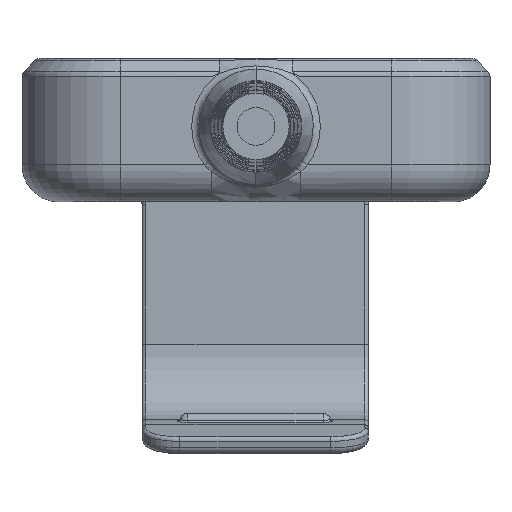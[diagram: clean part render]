
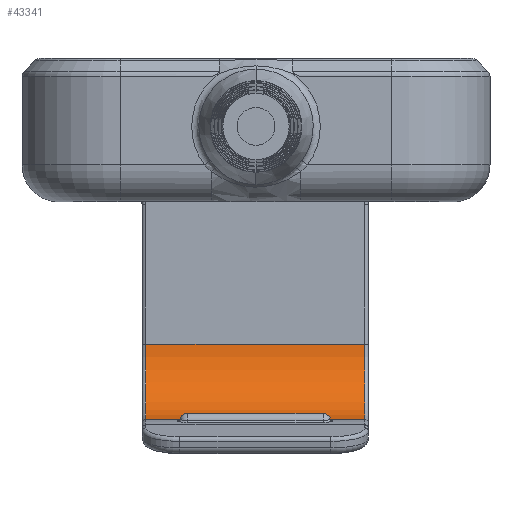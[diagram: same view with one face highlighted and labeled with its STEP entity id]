
A CAD part, front view. The second image highlights one B-rep face of the part: STEP entity #43341.
In plain terms, the highlighted cylindrical face has radius 10 mm (diameter 20 mm), a partial arc.
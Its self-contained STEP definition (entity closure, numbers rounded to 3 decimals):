
#1643 = CARTESIAN_POINT ( 'NONE',  ( 14.4, 146., -28.85 ) ) ;
#1648 = CARTESIAN_POINT ( 'NONE',  ( 14.4, 156., -18.85 ) ) ;
#1701 = CARTESIAN_POINT ( 'NONE',  ( -14.6, 146., -28.85 ) ) ;
#1712 = CARTESIAN_POINT ( 'NONE',  ( -14.6, 156., -18.85 ) ) ;
#2693 = AXIS2_PLACEMENT_3D ( 'NONE', #9649, #9641, #9640 ) ;
#9640 = DIRECTION ( 'NONE',  ( 0., 0., 1. ) ) ;
#9641 = DIRECTION ( 'NONE',  ( -1., 0., 0. ) ) ;
#9649 = CARTESIAN_POINT ( 'NONE',  ( 14.9, 146., -18.85 ) ) ;
#13773 = AXIS2_PLACEMENT_3D ( 'NONE', #39061, #39062, #39063 ) ;
#13793 = AXIS2_PLACEMENT_3D ( 'NONE', #39140, #39142, #39143 ) ;
#20768 = LINE ( 'NONE', #36584, #20769 ) ;
#20769 = VECTOR ( 'NONE', #36586, 1000. ) ;
#20886 = CYLINDRICAL_SURFACE ( 'NONE', #2693, 10. ) ;
#20890 = FACE_OUTER_BOUND ( 'NONE', #53156, .T. ) ;
#36458 = CARTESIAN_POINT ( 'NONE',  ( 14.9, 156., -18.85 ) ) ;
#36578 = DIRECTION ( 'NONE',  ( -1., 0., 0. ) ) ;
#36584 = CARTESIAN_POINT ( 'NONE',  ( 14.9, 146., -28.85 ) ) ;
#36586 = DIRECTION ( 'NONE',  ( -1., 0., 0. ) ) ;
#39061 = CARTESIAN_POINT ( 'NONE',  ( 14.4, 146., -18.85 ) ) ;
#39062 = DIRECTION ( 'NONE',  ( 1., 0., 0. ) ) ;
#39063 = DIRECTION ( 'NONE',  ( 0., 0., -1. ) ) ;
#39140 = CARTESIAN_POINT ( 'NONE',  ( -14.6, 146., -18.85 ) ) ;
#39142 = DIRECTION ( 'NONE',  ( -1., 0., 0. ) ) ;
#39143 = DIRECTION ( 'NONE',  ( 0., 0., -1. ) ) ;
#43341 = ADVANCED_FACE ( 'NONE', ( #20890 ), #20886, .F. ) ;
#53156 = EDGE_LOOP ( 'NONE', ( #55147, #55148, #55149, #55150 ) ) ;
#54098 = VERTEX_POINT ( 'NONE', #1648 ) ;
#54101 = VERTEX_POINT ( 'NONE', #1643 ) ;
#54132 = VERTEX_POINT ( 'NONE', #1701 ) ;
#54136 = VERTEX_POINT ( 'NONE', #1712 ) ;
#54270 = EDGE_CURVE ( 'NONE', #54101, #54098, #54743, .T. ) ;
#54300 = EDGE_CURVE ( 'NONE', #54136, #54132, #54784, .T. ) ;
#54447 = EDGE_CURVE ( 'NONE', #54098, #54136, #54948, .T. ) ;
#54449 = EDGE_CURVE ( 'NONE', #54101, #54132, #20768, .T. ) ;
#54743 = CIRCLE ( 'NONE', #13773, 10. ) ;
#54784 = CIRCLE ( 'NONE', #13793, 10. ) ;
#54948 = LINE ( 'NONE', #36458, #55007 ) ;
#55007 = VECTOR ( 'NONE', #36578, 1000. ) ;
#55147 = ORIENTED_EDGE ( 'NONE', *, *, #54447, .T. ) ;
#55148 = ORIENTED_EDGE ( 'NONE', *, *, #54300, .T. ) ;
#55149 = ORIENTED_EDGE ( 'NONE', *, *, #54449, .F. ) ;
#55150 = ORIENTED_EDGE ( 'NONE', *, *, #54270, .T. ) ;
